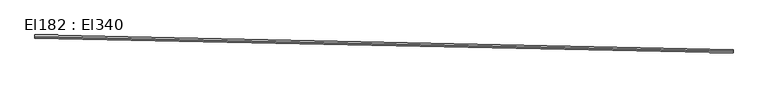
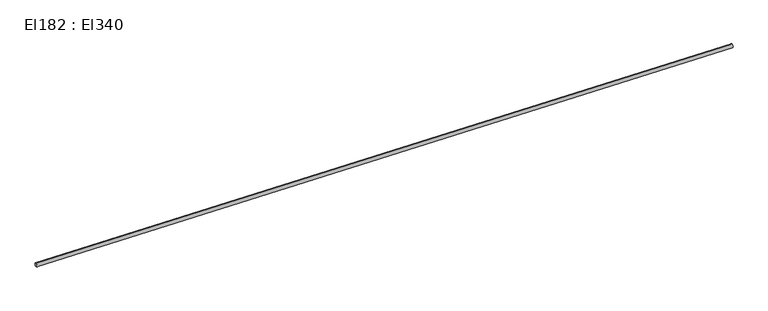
"""IFC4 building model written with IfcOpenShell, lengths in millimetres: cable carrier segment geometry, El182 : El340."""

import ifcopenshell
import ifcopenshell.guid

model = None  # the IFC model being written
_history = None  # IfcOwnerHistory: only IFC2X3 demands one
_inside = {}  # id of a spatial element -> (the spatial element, [elements in it])
_under = {}  # id of a project, library or spatial element -> (it, [spatial elements below it])
_declared = {}  # id of a project -> (the project, [libraries it declares])
_typed = {}  # id of a type object -> (the type object, [elements of that type])
_made_of = {}  # id of a material, layer set ... -> (it, [elements and type objects made of it])


def new_model(schema):
    """Start an empty IFC model of exactly this schema.

    Asked for "IFC4X3", IfcOpenShell would pick the latest addendum, in which some entities
    have other attributes; the version numbers below select the first issue.
    IFC2X3 requires an IfcOwnerHistory on every rooted entity: one is made here for all.
    """
    global model, _history
    if schema == "IFC4X3":
        model = ifcopenshell.file(schema_version=(4, 3, 0, 0))
    else:
        model = ifcopenshell.file(schema=schema)
    _inside.clear()
    _under.clear()
    _declared.clear()
    _typed.clear()
    _made_of.clear()
    _history = None
    if model.schema == "IFC2X3":
        org = make("IfcOrganization", Name="unknown")
        user = make(
            "IfcPersonAndOrganization",
            ThePerson=make("IfcPerson", FamilyName="unknown"),
            TheOrganization=org,
        )
        app = make(
            "IfcApplication",
            ApplicationDeveloper=org,
            Version="unknown",
            ApplicationFullName="unknown",
            ApplicationIdentifier="unknown",
        )
        _history = make(
            "IfcOwnerHistory",
            OwningUser=user,
            OwningApplication=app,
            ChangeAction="ADDED",
            CreationDate=0,
        )
    return model


def make(cls, **values):
    """One entity of the class cls with the attributes given. An attribute that is None is left unset."""
    return model.create_entity(
        cls, **{name: value for name, value in values.items() if value is not None}
    )


def rooted(cls, **values):
    """An entity with a GlobalId (a new one), such as an element, a storey or a relation."""
    return make(cls, GlobalId=ifcopenshell.guid.new(), OwnerHistory=_history, **values)


def si_unit(unit_type, name, prefix=None):
    """IfcSIUnit, for example si_unit("LENGTHUNIT", "METRE", prefix="MILLI")."""
    return make("IfcSIUnit", UnitType=unit_type, Prefix=prefix, Name=name)


def assignment(units):
    """IfcUnitAssignment: the units of a project."""
    return None if units is None else make("IfcUnitAssignment", Units=units)


def point(xyz):
    """IfcCartesianPoint."""
    return None if xyz is None else make("IfcCartesianPoint", Coordinates=xyz)


def direction(xyz):
    """IfcDirection."""
    return None if xyz is None else make("IfcDirection", DirectionRatios=xyz)


def frame(location, z_axis=None, x_axis=None):
    """IfcAxis2Placement3D, a coordinate frame: its origin and axes. An axis left out is left unset."""
    return make(
        "IfcAxis2Placement3D",
        Location=point(location),
        Axis=direction(z_axis),
        RefDirection=direction(x_axis),
    )


def frame_2d(location, x_axis=None):
    """IfcAxis2Placement2D, a coordinate frame in the plane: its origin and x axis."""
    return make(
        "IfcAxis2Placement2D", Location=point(location), RefDirection=direction(x_axis)
    )


def origin():
    """The frame at (0, 0, 0) with its axes left unset."""
    return frame((0.0, 0.0, 0.0))


def place(relative_to, where):
    """IfcLocalPlacement: puts the frame where relative to a parent placement (None: the world)."""
    return make(
        "IfcLocalPlacement", PlacementRelTo=relative_to, RelativePlacement=where
    )


def context(
    kind, dimensions, precision=None, world=None, true_north=None, identifier=None
):
    """IfcGeometricRepresentationContext, for example the 3D "Model" context."""
    return make(
        "IfcGeometricRepresentationContext",
        ContextIdentifier=identifier,
        ContextType=kind,
        CoordinateSpaceDimension=dimensions,
        Precision=precision,
        WorldCoordinateSystem=world,
        TrueNorth=true_north,
    )


def project(units=None, contexts=None):
    """IfcProject with its units and contexts."""
    return rooted(
        "IfcProject",
        Name="project",
        RepresentationContexts=contexts,
        UnitsInContext=assignment(units),
    )


def spatial(cls, under=None, at=None, **own):
    """A site, building, storey or space (cls), placed at a placement, below another one or the project."""
    s = rooted(cls, ObjectPlacement=at, **own)
    if under is not None:
        _under.setdefault(under.id(), (under, []))[1].append(s)
    return s


def circle_curve(where, radius):
    """IfcCircle in the frame where."""
    return make("IfcCircle", Position=where, Radius=radius)


def trimmed(basis, trim1, trim2, sense, master):
    """IfcTrimmedCurve: the piece of a basis curve between two trims."""
    return make(
        "IfcTrimmedCurve",
        BasisCurve=basis,
        Trim1=trim1,
        Trim2=trim2,
        SenseAgreement=sense,
        MasterRepresentation=master,
    )


def segment(curve, same_sense, transition):
    """IfcCompositeCurveSegment."""
    return make(
        "IfcCompositeCurveSegment",
        Transition=transition,
        SameSense=same_sense,
        ParentCurve=curve,
    )


def composite_curve(segments, self_intersect=None):
    """IfcCompositeCurve: segments joined end to end."""
    return make("IfcCompositeCurve", Segments=segments, SelfIntersect=self_intersect)


def outline(outer, holes=None, kind="AREA"):
    """IfcArbitraryClosedProfileDef: a profile drawn as a closed curve; with holes, ...WithVoids."""
    if holes is None:
        return make("IfcArbitraryClosedProfileDef", ProfileType=kind, OuterCurve=outer)
    return make(
        "IfcArbitraryProfileDefWithVoids",
        ProfileType=kind,
        OuterCurve=outer,
        InnerCurves=holes,
    )


def extrude(swept, where, along, depth):
    """IfcExtrudedAreaSolid: the profile swept, set in the frame where, extruded along a direction by depth."""
    return make(
        "IfcExtrudedAreaSolid",
        SweptArea=swept,
        Position=where,
        ExtrudedDirection=direction(along),
        Depth=depth,
    )


def shape(context_of_items, identifier, shape_type, items):
    """IfcShapeRepresentation: the items that make up one representation, for example the "Body"."""
    return make(
        "IfcShapeRepresentation",
        ContextOfItems=context_of_items,
        RepresentationIdentifier=identifier,
        RepresentationType=shape_type,
        Items=items,
    )


def source(mapping_origin, context_of_items, identifier, shape_type, items):
    """IfcRepresentationMap: a shape defined once, which mapped items show again and again."""
    return make(
        "IfcRepresentationMap",
        MappingOrigin=mapping_origin,
        MappedRepresentation=shape(context_of_items, identifier, shape_type, items),
    )


def transform(
    local_origin,
    x_axis=None,
    y_axis=None,
    z_axis=None,
    scale=None,
    scale2=None,
    scale3=None,
    uniform=True,
):
    """IfcCartesianTransformationOperator3D, or its non-uniform kind. x_axis, y_axis, z_axis: its Axis1, 2, 3."""
    if uniform:
        return make(
            "IfcCartesianTransformationOperator3D",
            Axis1=direction(x_axis),
            Axis2=direction(y_axis),
            LocalOrigin=point(local_origin),
            Scale=scale,
            Axis3=direction(z_axis),
        )
    return make(
        "IfcCartesianTransformationOperator3DnonUniform",
        Axis1=direction(x_axis),
        Axis2=direction(y_axis),
        LocalOrigin=point(local_origin),
        Scale=scale,
        Axis3=direction(z_axis),
        Scale2=scale2,
        Scale3=scale3,
    )


def mapped(mapping_source, mapping_target):
    """IfcMappedItem: shows the shape of a source again, moved by a transform."""
    return make(
        "IfcMappedItem", MappingSource=mapping_source, MappingTarget=mapping_target
    )


def made_of(thing, what):
    """Note that an element or type object is made of a material, layer set ...; save() writes the relation."""
    if what is not None:
        _made_of.setdefault(what.id(), (what, []))[1].append(thing)
    return thing


def element(
    cls,
    number,
    at=None,
    inside=None,
    cuts=None,
    type_object=None,
    material=None,
    context=None,
    identifier="Body",
    shape_type=None,
    held_by="IfcProductDefinitionShape",
    body=None,
    shapes=None,
    **own,
):
    """One element of the class cls, such as IfcWall. Its Tag is "e" and its number.

    at: its placement. inside: the storey or other place that contains it. cuts: it is an
    opening in that element (IfcRelVoidsElement). A single representation is given by context,
    identifier, shape_type and body (its items); several are given by shapes. held_by: the class
    of the entity that holds the representations. save() writes the other relations.
    """
    e = rooted(cls, Tag="e%d" % number, ObjectPlacement=at, **own)
    if body is not None:
        shapes = [shape(context, identifier, shape_type, body)]
    if shapes is not None:
        e.Representation = make(held_by, Representations=shapes)
    if inside is not None:
        _inside.setdefault(inside.id(), (inside, []))[1].append(e)
    if cuts is not None:
        rooted(
            "IfcRelVoidsElement", RelatingBuildingElement=cuts, RelatedOpeningElement=e
        )
    if type_object is not None:
        _typed.setdefault(type_object.id(), (type_object, []))[1].append(e)
    return made_of(e, material)


def aggregate(whole, parts):
    """IfcRelAggregates: a whole, such as a stair, and the parts it consists of."""
    return rooted("IfcRelAggregates", RelatingObject=whole, RelatedObjects=parts)


def save(model, path):
    """Write the relations noted so far, then the file.

    IfcRelAggregates (storeys below a building ...), IfcRelContainedInSpatialStructure (elements
    in a storey), IfcRelDefinesByType, IfcRelAssociatesMaterial and IfcRelDeclares: one each for
    every whole, place, type object, material and project.
    """
    for whole, parts in _under.values():
        aggregate(whole, parts)
    for where, things in _inside.values():
        rooted(
            "IfcRelContainedInSpatialStructure",
            RelatedElements=things,
            RelatingStructure=where,
        )
    for kind, things in _typed.values():
        rooted("IfcRelDefinesByType", RelatedObjects=things, RelatingType=kind)
    for what, things in _made_of.values():
        rooted("IfcRelAssociatesMaterial", RelatedObjects=things, RelatingMaterial=what)
    for by, libraries in _declared.values():
        rooted("IfcRelDeclares", RelatingContext=by, RelatedDefinitions=libraries)
    model.write(path)


def el182_el340_44536469(model_context):
    return source(origin(), model_context, "Body", "SweptSolid", [
        extrude(outline(composite_curve([segment(trimmed(circle_curve(frame_2d((0.0, -9.5)), 9.5), [point((0.0, -19.0))], [point((0.0, 0.0))], False, "CARTESIAN"), True, "CONTINUOUS"), segment(trimmed(circle_curve(frame_2d((0.0, -9.5)), 9.5), [point((0.0, 0.0))], [point((0.0, -19.0))], False, "CARTESIAN"), True, "CONTINUOUS")], self_intersect=False)), frame((18052.9946511, -734.8591255, 1509.5), z_axis=(-0.9997815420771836, 0.020901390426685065, 0.0), x_axis=(-0.020901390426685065, -0.9997815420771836, 0.0)), (0.0, 0.0, 1.0), 3799.87),
    ])


if __name__ == "__main__":
    model = new_model("IFC4")
    model_context = context("Model", 3, world=origin())
    ifc_project = project(units=[si_unit("LENGTHUNIT", "METRE", prefix="MILLI")], contexts=[model_context])
    site = spatial("IfcSite", under=ifc_project)
    building = spatial("IfcBuilding", under=site)
    placement = place(None, origin())
    el182_el340_shape = el182_el340_44536469(model_context)
    element("IfcCableCarrierSegment", 1, ObjectType="El182 : El340", at=placement, inside=building, context=model_context, shape_type="MappedRepresentation", body=[
        mapped(el182_el340_shape, transform((0.0, 0.0, 0.0), x_axis=(1.0, 0.0, 0.0), y_axis=(0.0, 1.0, 0.0), z_axis=(0.0, 0.0, 1.0))),
    ])
    save(model, "model.ifc")
